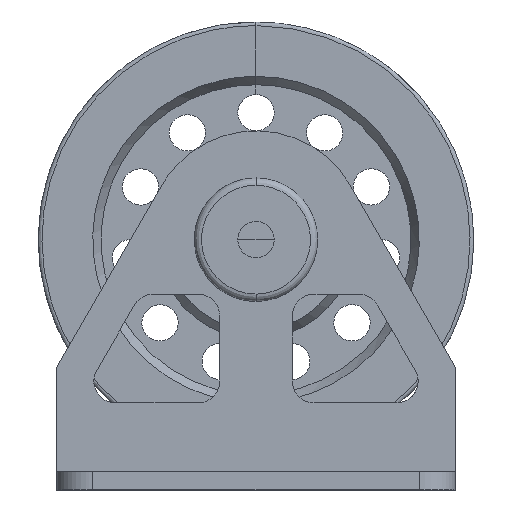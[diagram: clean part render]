
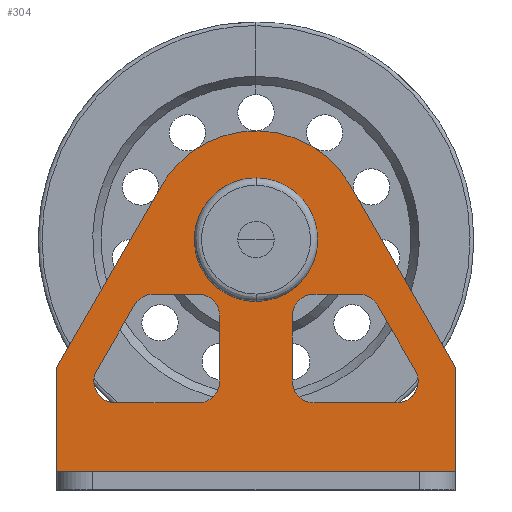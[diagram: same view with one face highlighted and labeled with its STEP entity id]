
A CAD part, front view. The second image highlights one B-rep face of the part: STEP entity #304.
In plain terms, the highlighted free-form (B-spline) face has degree [1, 1] with [2, 2] control points.
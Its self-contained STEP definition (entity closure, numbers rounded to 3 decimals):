
#153=FACE_BOUND($,#759,.T.);
#154=FACE_BOUND($,#760,.T.);
#155=FACE_BOUND($,#761,.T.);
#304=ADVANCED_FACE($,(#522,#153,#154,#155),#2720,.T.);
#522=FACE_OUTER_BOUND($,#758,.T.);
#758=EDGE_LOOP($,(#1366,#1367,#1368,#1369,#1370,#1371));
#759=EDGE_LOOP($,(#1372,#1373));
#760=EDGE_LOOP($,(#1374));
#761=EDGE_LOOP($,(#1375,#1376));
#1366=ORIENTED_EDGE($,*,*,#2113,.T.);
#1367=ORIENTED_EDGE($,*,*,#2123,.T.);
#1368=ORIENTED_EDGE($,*,*,#2114,.T.);
#1369=ORIENTED_EDGE($,*,*,#2116,.T.);
#1370=ORIENTED_EDGE($,*,*,#2118,.T.);
#1371=ORIENTED_EDGE($,*,*,#2120,.T.);
#1372=ORIENTED_EDGE($,*,*,#2122,.T.);
#1373=ORIENTED_EDGE($,*,*,#2143,.T.);
#1374=ORIENTED_EDGE($,*,*,#2127,.F.);
#1375=ORIENTED_EDGE($,*,*,#2146,.F.);
#1376=ORIENTED_EDGE($,*,*,#2130,.F.);
#2113=EDGE_CURVE($,#2518,#2523,#8515,.T.);
#2114=EDGE_CURVE($,#2524,#2519,#8516,.T.);
#2116=EDGE_CURVE($,#2519,#2520,#8518,.T.);
#2118=EDGE_CURVE($,#2520,#2521,#3025,.T.);
#2120=EDGE_CURVE($,#2521,#2518,#8521,.T.);
#2122=EDGE_CURVE($,#2522,#2538,#3026,.T.);
#2123=EDGE_CURVE($,#2523,#2524,#8523,.T.);
#2127=EDGE_CURVE($,#2527,#2527,#3028,.T.);
#2130=EDGE_CURVE($,#2530,#2539,#3030,.T.);
#2143=EDGE_CURVE($,#2538,#2522,#3038,.T.);
#2146=EDGE_CURVE($,#2539,#2530,#3040,.T.);
#2518=VERTEX_POINT($,#6345);
#2519=VERTEX_POINT($,#6346);
#2520=VERTEX_POINT($,#6347);
#2521=VERTEX_POINT($,#6348);
#2522=VERTEX_POINT($,#6349);
#2523=VERTEX_POINT($,#6350);
#2524=VERTEX_POINT($,#6351);
#2527=VERTEX_POINT($,#6354);
#2530=VERTEX_POINT($,#6357);
#2538=VERTEX_POINT($,#6365);
#2539=VERTEX_POINT($,#6366);
#2720=B_SPLINE_SURFACE_WITH_KNOTS($,1,1,((#6196,#6197),(#6198,#6199)),.UNSPECIFIED.,
.F.,.F.,.F.,(2,2),(2,2),(-62.5,47.5),(-64.,30.),.UNSPECIFIED.);
#3025=(
BOUNDED_CURVE()
B_SPLINE_CURVE(2,(#5940,#5941,#5942,#5943,#5944),.UNSPECIFIED.,.F.,.F.)
B_SPLINE_CURVE_WITH_KNOTS((3,2,3),(15.708,47.124,78.54),
.UNSPECIFIED.)
CURVE()
GEOMETRIC_REPRESENTATION_ITEM()
RATIONAL_B_SPLINE_CURVE((1.,0.866,1.,0.866,1.))
REPRESENTATION_ITEM($)
);
#3026=(
BOUNDED_CURVE()
B_SPLINE_CURVE(2,(#5951,#5952,#5953,#5954,#5955),.UNSPECIFIED.,.F.,.F.)
B_SPLINE_CURVE_WITH_KNOTS((3,2,3),(-47.124,-35.343,-23.562),
.UNSPECIFIED.)
CURVE()
GEOMETRIC_REPRESENTATION_ITEM()
RATIONAL_B_SPLINE_CURVE((1.,0.707,1.,0.707,1.))
REPRESENTATION_ITEM($)
);
#3028=(
BOUNDED_CURVE()
B_SPLINE_CURVE(2,(#5981,#5982,#5983,#5984,#5985,#5986,#5987,#5988,#5989,
#5990,#5991,#5992,#5993,#5994,#5995,#5996,#5997,#5998,#5999),.UNSPECIFIED.,
.T.,.F.)
B_SPLINE_CURVE_WITH_KNOTS((3,2,2,2,2,2,2,2,2,3),(-111.448,-88.778,
-79.358,-61.367,-51.947,-39.664,
-33.334,-12.56,-6.28,0.),.UNSPECIFIED.)
CURVE()
GEOMETRIC_REPRESENTATION_ITEM()
RATIONAL_B_SPLINE_CURVE((1.,1.,1.,0.707,1.,1.,1.,0.707,
1.,1.,1.,0.865,1.,1.,1.,0.866,1.,0.866,
1.))
REPRESENTATION_ITEM($)
);
#3030=(
BOUNDED_CURVE()
B_SPLINE_CURVE(2,(#6011,#6012,#6013,#6014,#6015,#6016,#6017,#6018,#6019),
.UNSPECIFIED.,.F.,.F.)
B_SPLINE_CURVE_WITH_KNOTS((3,2,2,2,3),(-111.448,-88.778,
-82.498,-76.218,-55.444),.UNSPECIFIED.)
CURVE()
GEOMETRIC_REPRESENTATION_ITEM()
RATIONAL_B_SPLINE_CURVE((1.,1.,1.,0.866,1.,0.866,
1.,1.,1.))
REPRESENTATION_ITEM($)
);
#3038=(
BOUNDED_CURVE()
B_SPLINE_CURVE(2,(#6065,#6066,#6067,#6068,#6069),.UNSPECIFIED.,.F.,.F.)
B_SPLINE_CURVE_WITH_KNOTS((3,2,3),(-23.562,-11.781,0.),
.UNSPECIFIED.)
CURVE()
GEOMETRIC_REPRESENTATION_ITEM()
RATIONAL_B_SPLINE_CURVE((1.,0.707,1.,0.707,1.))
REPRESENTATION_ITEM($)
);
#3040=(
BOUNDED_CURVE()
B_SPLINE_CURVE(2,(#6083,#6084,#6085,#6086,#6087,#6088,#6089,#6090,#6091,
#6092,#6093),.UNSPECIFIED.,.F.,.F.)
B_SPLINE_CURVE_WITH_KNOTS((3,2,2,2,2,3),(-55.444,-49.114,
-36.831,-27.411,-9.42,0.),.UNSPECIFIED.)
CURVE()
GEOMETRIC_REPRESENTATION_ITEM()
RATIONAL_B_SPLINE_CURVE((1.,0.865,1.,1.,1.,0.707,
1.,1.,1.,0.707,1.))
REPRESENTATION_ITEM($)
);
#5930=CARTESIAN_POINT($,(0.,25.,24.737));
#5931=CARTESIAN_POINT($,(0.,25.,-4.));
#5932=CARTESIAN_POINT($,(110.,25.,-4.));
#5933=CARTESIAN_POINT($,(110.,25.,24.737));
#5936=CARTESIAN_POINT($,(110.,25.,24.737));
#5937=CARTESIAN_POINT($,(80.981,25.,75.));
#5940=CARTESIAN_POINT($,(80.981,25.,75.));
#5941=CARTESIAN_POINT($,(72.321,25.,90.));
#5942=CARTESIAN_POINT($,(55.,25.,90.));
#5943=CARTESIAN_POINT($,(37.679,25.,90.));
#5944=CARTESIAN_POINT($,(29.019,25.,75.));
#5947=CARTESIAN_POINT($,(29.019,25.,75.));
#5948=CARTESIAN_POINT($,(0.,25.,24.737));
#5951=CARTESIAN_POINT($,(62.5,25.,60.));
#5952=CARTESIAN_POINT($,(62.5,25.,52.5));
#5953=CARTESIAN_POINT($,(55.,25.,52.5));
#5954=CARTESIAN_POINT($,(47.5,25.,52.5));
#5955=CARTESIAN_POINT($,(47.5,25.,60.));
#5956=CARTESIAN_POINT($,(0.,25.,-4.));
#5957=CARTESIAN_POINT($,(110.,25.,-4.));
#5981=CARTESIAN_POINT($,(16.318,25.,15.));
#5982=CARTESIAN_POINT($,(27.659,25.,15.));
#5983=CARTESIAN_POINT($,(39.,25.,15.));
#5984=CARTESIAN_POINT($,(45.,25.,15.));
#5985=CARTESIAN_POINT($,(45.,25.,21.));
#5986=CARTESIAN_POINT($,(45.,25.,30.));
#5987=CARTESIAN_POINT($,(45.,25.,39.));
#5988=CARTESIAN_POINT($,(45.,25.,45.));
#5989=CARTESIAN_POINT($,(39.,25.,45.));
#5990=CARTESIAN_POINT($,(32.855,25.,45.));
#5991=CARTESIAN_POINT($,(26.71,25.,45.));
#5992=CARTESIAN_POINT($,(23.229,25.,45.));
#5993=CARTESIAN_POINT($,(21.501,25.,41.978));
#5994=CARTESIAN_POINT($,(16.312,25.,32.989));
#5995=CARTESIAN_POINT($,(11.122,25.,24.));
#5996=CARTESIAN_POINT($,(9.39,25.,21.));
#5997=CARTESIAN_POINT($,(11.122,25.,18.));
#5998=CARTESIAN_POINT($,(12.854,25.,15.));
#5999=CARTESIAN_POINT($,(16.318,25.,15.));
#6011=CARTESIAN_POINT($,(71.,25.,15.));
#6012=CARTESIAN_POINT($,(82.341,25.,15.));
#6013=CARTESIAN_POINT($,(93.682,25.,15.));
#6014=CARTESIAN_POINT($,(97.146,25.,15.));
#6015=CARTESIAN_POINT($,(98.878,25.,18.));
#6016=CARTESIAN_POINT($,(100.61,25.,21.));
#6017=CARTESIAN_POINT($,(98.878,25.,24.));
#6018=CARTESIAN_POINT($,(93.688,25.,32.989));
#6019=CARTESIAN_POINT($,(88.499,25.,41.978));
#6065=CARTESIAN_POINT($,(47.5,25.,60.));
#6066=CARTESIAN_POINT($,(47.5,25.,67.5));
#6067=CARTESIAN_POINT($,(55.,25.,67.5));
#6068=CARTESIAN_POINT($,(62.5,25.,67.5));
#6069=CARTESIAN_POINT($,(62.5,25.,60.));
#6083=CARTESIAN_POINT($,(88.499,25.,41.978));
#6084=CARTESIAN_POINT($,(86.771,25.,45.));
#6085=CARTESIAN_POINT($,(83.29,25.,45.));
#6086=CARTESIAN_POINT($,(77.145,25.,45.));
#6087=CARTESIAN_POINT($,(71.,25.,45.));
#6088=CARTESIAN_POINT($,(65.,25.,45.));
#6089=CARTESIAN_POINT($,(65.,25.,39.));
#6090=CARTESIAN_POINT($,(65.,25.,30.));
#6091=CARTESIAN_POINT($,(65.,25.,21.));
#6092=CARTESIAN_POINT($,(65.,25.,15.));
#6093=CARTESIAN_POINT($,(71.,25.,15.));
#6196=CARTESIAN_POINT($,(0.,25.,-4.));
#6197=CARTESIAN_POINT($,(0.,25.,90.));
#6198=CARTESIAN_POINT($,(110.,25.,-4.));
#6199=CARTESIAN_POINT($,(110.,25.,90.));
#6345=CARTESIAN_POINT($,(0.,25.,24.737));
#6346=CARTESIAN_POINT($,(110.,25.,24.737));
#6347=CARTESIAN_POINT($,(80.981,25.,75.));
#6348=CARTESIAN_POINT($,(29.019,25.,75.));
#6349=CARTESIAN_POINT($,(62.5,25.,60.));
#6350=CARTESIAN_POINT($,(0.,25.,-4.));
#6351=CARTESIAN_POINT($,(110.,25.,-4.));
#6354=CARTESIAN_POINT($,(16.318,25.,15.));
#6357=CARTESIAN_POINT($,(71.,25.,15.));
#6365=CARTESIAN_POINT($,(47.5,25.,60.));
#6366=CARTESIAN_POINT($,(88.499,25.,41.978));
#8515=B_SPLINE_CURVE_WITH_KNOTS($,1,(#5930,#5931),.UNSPECIFIED.,.F.,.F.,
(2,2),(-28.737,0.),.UNSPECIFIED.);
#8516=B_SPLINE_CURVE_WITH_KNOTS($,1,(#5932,#5933),.UNSPECIFIED.,.F.,.F.,
(2,2),(0.,28.737),.UNSPECIFIED.);
#8518=B_SPLINE_CURVE_WITH_KNOTS($,1,(#5936,#5937),.UNSPECIFIED.,.F.,.F.,
(2,2),(-58.038,0.),.UNSPECIFIED.);
#8521=B_SPLINE_CURVE_WITH_KNOTS($,1,(#5947,#5948),.UNSPECIFIED.,.F.,.F.,
(2,2),(0.,58.038),.UNSPECIFIED.);
#8523=B_SPLINE_CURVE_WITH_KNOTS($,1,(#5956,#5957),.UNSPECIFIED.,.F.,.F.,
(2,2),(0.,110.),.UNSPECIFIED.);
